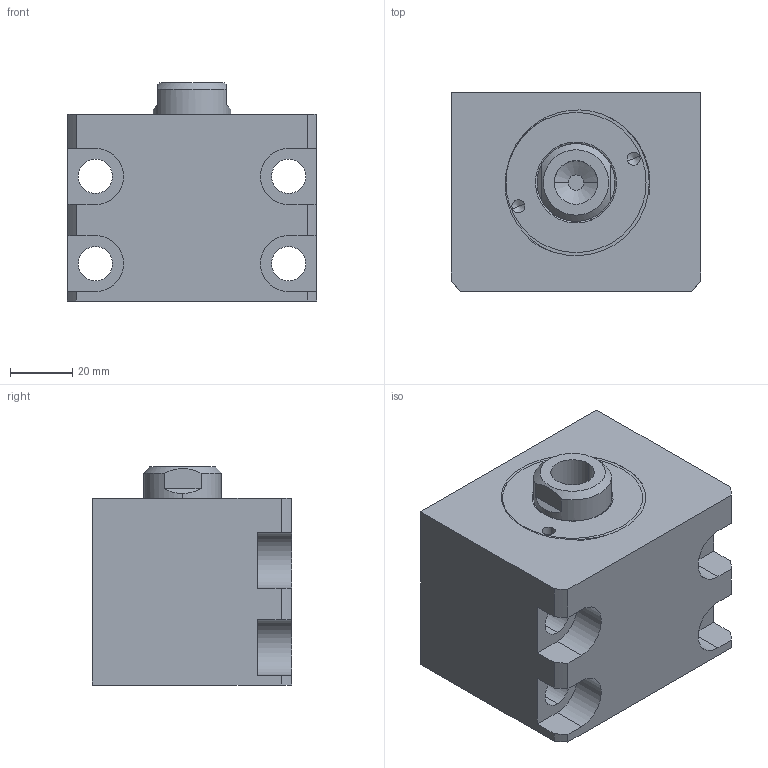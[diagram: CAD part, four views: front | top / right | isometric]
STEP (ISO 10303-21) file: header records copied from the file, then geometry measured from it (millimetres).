
FILE_DESCRIPTION (( 'STEP AP214' ), '1' );
FILE_NAME ('chtb-lam40x5n_asm.STEP', '2018-05-30T01:53:48', ( 'Windows' ), ( 'Microsoft' ), 'SwSTEP 2.0', 'SolidWorks 2015', '' );
FILE_SCHEMA (( 'AUTOMOTIVE_DESIGN' ));
Length unit declared in the file: millimetre
Products named in the file (4): CHTB-SD40X5NHSG; CHTB-SD40QG; CHTB-LAM40X5NBT; chtb-lam40x5n_asm
Assembly tree (3 placements, depth 2):
  chtb-lam40x5n_asm
    CHTB-LAM40X5NBT
    CHTB-SD40QG
    CHTB-SD40X5NHSG
Bounding box: 80 x 64 x 70 mm (x, y, z)
Volume: 265552 mm3; surface area: 62869.3 mm2
Topology: 3 solids, 3 shells, 143 faces, 391 edges, 260 vertices
Faces by surface type: cylinder 70, plane 38, bspline 14, torus 12, cone 9
Entity records: 9727 total; most frequent: CARTESIAN_POINT 6019, ORIENTED_EDGE 770, DIRECTION 698, EDGE_CURVE 385, AXIS2_PLACEMENT_3D 282, VERTEX_POINT 260, EDGE_LOOP 169, CIRCLE 147
